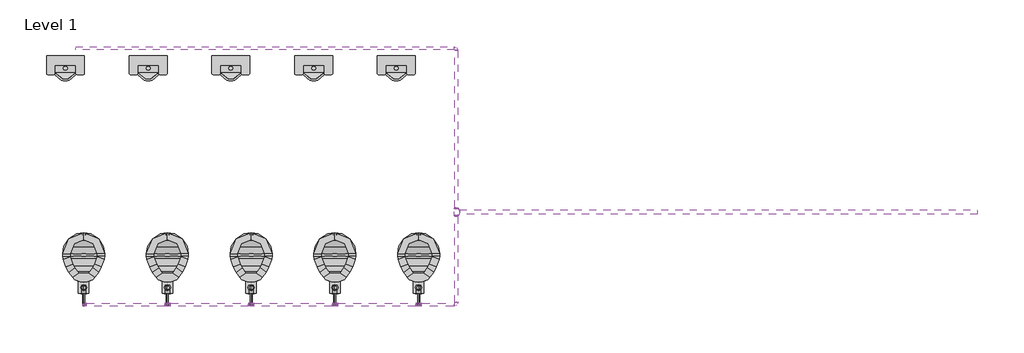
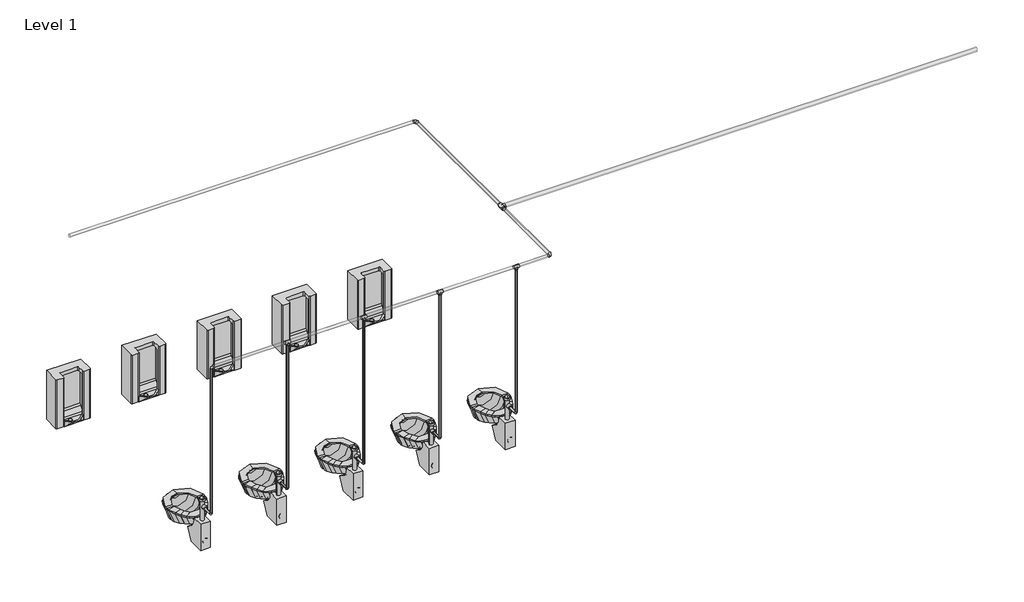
# One storey: 20 pipe fittings, 19 pipe segments, 10 flow terminals.
"""IFC4 building model written with IfcOpenShell, lengths in millimetres."""

from ifc_helpers import new_model, si_unit, point, frame, frame_2d, origin, place, context, project, spatial, circle_curve, trimmed, segment, composite_curve, outline, extrude, transform, mapped, element, save
from components import m_urinal_with_wing_wall_hung_standard_c620f45a, m_water_closet_flush_valve_wall_mounted_private_6_1_lpf_e7253cda, m_elbow_generic_standard_371413ad, m_elbow_generic_standard_773e5a53, m_elbow_generic_standard_c06ac706, m_tee_generic_standard_1efde03b, m_tee_generic_standard_3d02b783, m_transition_generic_standard_974af0e1, m_transition_generic_standard_75be8432

model = new_model("IFC4")

# Units and contexts
model_context = context("Model", 3, world=origin())
ifc_project = project(units=[si_unit("LENGTHUNIT", "METRE", prefix="MILLI")], contexts=[model_context])

# Site, building, storey
site = spatial("IfcSite", under=ifc_project)
building = spatial("IfcBuilding", under=site)
storey = spatial("IfcBuildingStorey", under=building, Name="Level 1", Elevation=0.0)

# Flow terminals
placement = place(None, origin())
m_urinal_with_wing_wall_hung_standard_shape = m_urinal_with_wing_wall_hung_standard_c620f45a(model_context)
element("IfcFlowTerminal", 1, ObjectType="M_Urinal with Wing - Wall Hung : Standard", at=placement, inside=storey, context=model_context, shape_type="MappedRepresentation", body=[
    mapped(m_urinal_with_wing_wall_hung_standard_shape, transform((-4050.7449839, -3749.1353269, 430.0), x_axis=(1.0, 0.0, 0.0), y_axis=(0.0, 0.0, 1.0), z_axis=(0.0, -1.0, 0.0))),
])
element("IfcFlowTerminal", 2, ObjectType="M_Urinal with Wing - Wall Hung : Standard", at=placement, inside=storey, context=model_context, shape_type="MappedRepresentation", body=[
    mapped(m_urinal_with_wing_wall_hung_standard_shape, transform((-5050.7449839, -3749.1353269, 430.0), x_axis=(1.0, 0.0, 0.0), y_axis=(0.0, 0.0, 1.0), z_axis=(0.0, -1.0, 0.0))),
])
element("IfcFlowTerminal", 3, ObjectType="M_Urinal with Wing - Wall Hung : Standard", at=placement, inside=storey, context=model_context, shape_type="MappedRepresentation", body=[
    mapped(m_urinal_with_wing_wall_hung_standard_shape, transform((-6050.7449839, -3749.1353269, 430.0), x_axis=(1.0, 0.0, 0.0), y_axis=(0.0, 0.0, 1.0), z_axis=(0.0, -1.0, 0.0))),
])
element("IfcFlowTerminal", 4, ObjectType="M_Urinal with Wing - Wall Hung : Standard", at=placement, inside=storey, context=model_context, shape_type="MappedRepresentation", body=[
    mapped(m_urinal_with_wing_wall_hung_standard_shape, transform((-7050.7449839, -3749.1353269, 430.0), x_axis=(1.0, 0.0, 0.0), y_axis=(0.0, 0.0, 1.0), z_axis=(0.0, -1.0, 0.0))),
])
element("IfcFlowTerminal", 5, ObjectType="M_Urinal with Wing - Wall Hung : Standard", at=placement, inside=storey, context=model_context, shape_type="MappedRepresentation", body=[
    mapped(m_urinal_with_wing_wall_hung_standard_shape, transform((-8050.7449839, -3749.1353269, 430.0), x_axis=(1.0, 0.0, 0.0), y_axis=(0.0, 0.0, 1.0), z_axis=(0.0, -1.0, 0.0))),
])
m_water_closet_flush_valve_wall_mounted_private_6_1_lpf_shape = m_water_closet_flush_valve_wall_mounted_private_6_1_lpf_e7253cda(model_context)
element("IfcFlowTerminal", 6, ObjectType="M_Water Closet - Flush Valve - Wall Mounted : Private - 6.1 Lpf", at=placement, inside=storey, context=model_context, shape_type="MappedRepresentation", body=[
    mapped(m_water_closet_flush_valve_wall_mounted_private_6_1_lpf_shape, transform((-3781.7783755, -6623.8353269, 430.0), x_axis=(-1.0, 0.0, 0.0), y_axis=(0.0, 0.0, 1.0), z_axis=(0.0, 1.0, 0.0))),
])
element("IfcFlowTerminal", 7, ObjectType="M_Water Closet - Flush Valve - Wall Mounted : Private - 6.1 Lpf", at=placement, inside=storey, context=model_context, shape_type="MappedRepresentation", body=[
    mapped(m_water_closet_flush_valve_wall_mounted_private_6_1_lpf_shape, transform((-4793.7783755, -6623.8353269, 430.0), x_axis=(-1.0, 0.0, 0.0), y_axis=(0.0, 0.0, 1.0), z_axis=(0.0, 1.0, 0.0))),
])
element("IfcFlowTerminal", 8, ObjectType="M_Water Closet - Flush Valve - Wall Mounted : Private - 6.1 Lpf", at=placement, inside=storey, context=model_context, shape_type="MappedRepresentation", body=[
    mapped(m_water_closet_flush_valve_wall_mounted_private_6_1_lpf_shape, transform((-5805.7783755, -6623.8353269, 430.0), x_axis=(-1.0, 0.0, 0.0), y_axis=(0.0, 0.0, 1.0), z_axis=(0.0, 1.0, 0.0))),
])
element("IfcFlowTerminal", 9, ObjectType="M_Water Closet - Flush Valve - Wall Mounted : Private - 6.1 Lpf", at=placement, inside=storey, context=model_context, shape_type="MappedRepresentation", body=[
    mapped(m_water_closet_flush_valve_wall_mounted_private_6_1_lpf_shape, transform((-6817.7783755, -6623.8353269, 430.0), x_axis=(-1.0, 0.0, 0.0), y_axis=(0.0, 0.0, 1.0), z_axis=(0.0, 1.0, 0.0))),
])
element("IfcFlowTerminal", 10, ObjectType="M_Water Closet - Flush Valve - Wall Mounted : Private - 6.1 Lpf", at=placement, inside=storey, context=model_context, shape_type="MappedRepresentation", body=[
    mapped(m_water_closet_flush_valve_wall_mounted_private_6_1_lpf_shape, transform((-7829.7783755, -6623.8353269, 430.0), x_axis=(-1.0, 0.0, 0.0), y_axis=(0.0, 0.0, 1.0), z_axis=(0.0, 1.0, 0.0))),
])

# Pipe fittings
m_elbow_generic_standard_shape = m_elbow_generic_standard_371413ad(model_context)
element("IfcPipeFitting", 11, ObjectType="M_Elbow - Generic : Standard", at=placement, inside=storey, context=model_context, shape_type="MappedRepresentation", body=[
    mapped(m_elbow_generic_standard_shape, transform((-3324.7579909, -3659.2203152, 2750.0), x_axis=(0.0, 1.0, 0.0), y_axis=(-1.0, 0.0, 0.0), z_axis=(0.0, 0.0, 1.0))),
])
element("IfcPipeFitting", 12, ObjectType="M_Elbow - Generic : Standard", at=placement, inside=storey, context=model_context, shape_type="MappedRepresentation", body=[
    mapped(m_elbow_generic_standard_shape, transform((-3324.7579909, -6759.2203152, 2750.0), x_axis=(1.0, 0.0, 0.0), y_axis=(0.0, 1.0, 0.0), z_axis=(0.0, 0.0, 1.0))),
])
m_elbow_generic_standard_2_shape = m_elbow_generic_standard_773e5a53(model_context)
element("IfcPipeFitting", 13, ObjectType="M_Elbow - Generic : Standard", at=placement, inside=storey, context=model_context, shape_type="MappedRepresentation", body=[
    mapped(m_elbow_generic_standard_2_shape, transform((-7829.7783755, -6759.2203152, 688.2), x_axis=(0.0, -0.9999999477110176, -0.00032338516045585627), y_axis=(0.0, -0.00032338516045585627, 0.9999999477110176), z_axis=(-1.0, 0.0, 0.0))),
])
m_elbow_generic_standard_3_shape = m_elbow_generic_standard_c06ac706(model_context)
element("IfcPipeFitting", 14, ObjectType="M_Elbow - Generic : Standard", at=placement, inside=storey, context=model_context, shape_type="MappedRepresentation", body=[
    mapped(m_elbow_generic_standard_3_shape, transform((-3781.7783755, -6759.2203152, 688.2), x_axis=(0.0, 0.0, -1.0), y_axis=(0.0, 1.0, 0.0), z_axis=(1.0, 0.0, 0.0))),
])
element("IfcPipeFitting", 15, ObjectType="M_Elbow - Generic : Standard", at=placement, inside=storey, context=model_context, shape_type="MappedRepresentation", body=[
    mapped(m_elbow_generic_standard_3_shape, transform((-4793.7783755, -6759.2203152, 688.2), x_axis=(0.0, 0.0, -1.0), y_axis=(0.0, 1.0, 0.0), z_axis=(1.0, 0.0, 0.0))),
])
element("IfcPipeFitting", 16, ObjectType="M_Elbow - Generic : Standard", at=placement, inside=storey, context=model_context, shape_type="MappedRepresentation", body=[
    mapped(m_elbow_generic_standard_3_shape, transform((-5805.7783755, -6759.2203152, 688.2), x_axis=(0.0, 0.0, -1.0), y_axis=(0.0, 1.0, 0.0), z_axis=(1.0, 0.0, 0.0))),
])
element("IfcPipeFitting", 17, ObjectType="M_Elbow - Generic : Standard", at=placement, inside=storey, context=model_context, shape_type="MappedRepresentation", body=[
    mapped(m_elbow_generic_standard_3_shape, transform((-6817.7783755, -6759.2203152, 688.2), x_axis=(0.0, 0.0, -1.0), y_axis=(0.0, 1.0, 0.0), z_axis=(1.0, 0.0, 0.0))),
])
element("IfcPipeFitting", 18, ObjectType="M_Elbow - Generic : Standard", at=placement, inside=storey, context=model_context, shape_type="MappedRepresentation", body=[
    mapped(m_elbow_generic_standard_3_shape, transform((-7829.7783755, -6759.2203152, 2750.0), x_axis=(-1.0, 0.0, 0.0), y_axis=(0.0, 0.0, -1.0), z_axis=(0.0, -1.0, 0.0))),
])
m_tee_generic_standard_shape = m_tee_generic_standard_1efde03b(model_context)
element("IfcPipeFitting", 19, ObjectType="M_Tee - Generic : Standard", at=placement, inside=storey, context=model_context, shape_type="MappedRepresentation", body=[
    mapped(m_tee_generic_standard_shape, transform((-3324.7579909, -5638.8520575, 2750.0), x_axis=(0.0, 1.0, 0.0), y_axis=(-1.0, 0.0, 0.0), z_axis=(0.0, 0.0, 1.0))),
])
m_tee_generic_standard_2_shape = m_tee_generic_standard_3d02b783(model_context)
element("IfcPipeFitting", 20, ObjectType="M_Tee - Generic : Standard", at=placement, inside=storey, context=model_context, shape_type="MappedRepresentation", body=[
    mapped(m_tee_generic_standard_2_shape, transform((-3781.7783755, -6759.2203152, 2750.0), x_axis=(1.0, 0.0, 0.0), y_axis=(0.0, 0.0, 1.0), z_axis=(0.0, -1.0, 0.0))),
])
element("IfcPipeFitting", 21, ObjectType="M_Tee - Generic : Standard", at=placement, inside=storey, context=model_context, shape_type="MappedRepresentation", body=[
    mapped(m_tee_generic_standard_2_shape, transform((-4793.7783755, -6759.2203152, 2750.0), x_axis=(1.0, 0.0, 0.0), y_axis=(0.0, 0.0, 1.0), z_axis=(0.0, -1.0, 0.0))),
])
element("IfcPipeFitting", 22, ObjectType="M_Tee - Generic : Standard", at=placement, inside=storey, context=model_context, shape_type="MappedRepresentation", body=[
    mapped(m_tee_generic_standard_2_shape, transform((-5805.7783755, -6759.2203152, 2750.0), x_axis=(1.0, 0.0, 0.0), y_axis=(0.0, 0.0, 1.0), z_axis=(0.0, -1.0, 0.0))),
])
element("IfcPipeFitting", 23, ObjectType="M_Tee - Generic : Standard", at=placement, inside=storey, context=model_context, shape_type="MappedRepresentation", body=[
    mapped(m_tee_generic_standard_2_shape, transform((-6817.7783755, -6759.2203152, 2750.0), x_axis=(1.0, 0.0, 0.0), y_axis=(0.0, 0.0, 1.0), z_axis=(0.0, -1.0, 0.0))),
])
m_transition_generic_standard_shape = m_transition_generic_standard_974af0e1(model_context)
element("IfcPipeFitting", 24, ObjectType="M_Transition - Generic : Standard", at=placement, inside=storey, context=model_context, shape_type="MappedRepresentation", body=[
    mapped(m_transition_generic_standard_shape, transform((-3324.7579909, -5678.5395575, 2750.0), x_axis=(0.0, -1.0, 0.0), y_axis=(1.0, 0.0, 0.0), z_axis=(0.0, 0.0, 1.0))),
])
element("IfcPipeFitting", 25, ObjectType="M_Transition - Generic : Standard", at=placement, inside=storey, context=model_context, shape_type="MappedRepresentation", body=[
    mapped(m_transition_generic_standard_shape, transform((-3324.7579909, -5599.1645575, 2750.0), x_axis=(0.0, 1.0, 0.0), y_axis=(-1.0, 0.0, 0.0), z_axis=(0.0, 0.0, 1.0))),
])
m_transition_generic_standard_2_shape = m_transition_generic_standard_75be8432(model_context)
element("IfcPipeFitting", 26, ObjectType="M_Transition - Generic : Standard", at=placement, inside=storey, context=model_context, shape_type="MappedRepresentation", body=[
    mapped(m_transition_generic_standard_2_shape, transform((-3781.7783755, -6759.2203152, 2716.6625), x_axis=(0.0, 0.0, -1.0), y_axis=(-1.0, 0.0, 0.0), z_axis=(0.0, 1.0, 0.0))),
])
element("IfcPipeFitting", 27, ObjectType="M_Transition - Generic : Standard", at=placement, inside=storey, context=model_context, shape_type="MappedRepresentation", body=[
    mapped(m_transition_generic_standard_2_shape, transform((-4793.7783755, -6759.2203152, 2716.6625), x_axis=(0.0, 0.0, -1.0), y_axis=(-1.0, 0.0, 0.0), z_axis=(0.0, 1.0, 0.0))),
])
element("IfcPipeFitting", 28, ObjectType="M_Transition - Generic : Standard", at=placement, inside=storey, context=model_context, shape_type="MappedRepresentation", body=[
    mapped(m_transition_generic_standard_2_shape, transform((-5805.7783755, -6759.2203152, 2716.6625), x_axis=(0.0, 0.0, -1.0), y_axis=(-1.0, 0.0, 0.0), z_axis=(0.0, 1.0, 0.0))),
])
element("IfcPipeFitting", 29, ObjectType="M_Transition - Generic : Standard", at=placement, inside=storey, context=model_context, shape_type="MappedRepresentation", body=[
    mapped(m_transition_generic_standard_2_shape, transform((-6817.7783755, -6759.2203152, 2716.6625), x_axis=(0.0, 0.0, -1.0), y_axis=(-1.0, 0.0, 0.0), z_axis=(0.0, 1.0, 0.0))),
])
element("IfcPipeFitting", 30, ObjectType="M_Transition - Generic : Standard", at=placement, inside=storey, context=model_context, shape_type="MappedRepresentation", body=[
    mapped(m_transition_generic_standard_2_shape, transform((-7798.8221255, -6759.2203152, 2750.0), x_axis=(-1.0, 0.0, 0.0), y_axis=(0.0, -1.0, 0.0), z_axis=(0.0, 0.0, 1.0))),
])

# Pipe segments
element("IfcPipeSegment", 31, ObjectType="Standard", at=placement, inside=storey, context=model_context, shape_type="SweptSolid", body=[
    extrude(outline(composite_curve([segment(trimmed(circle_curve(frame_2d((-3659.2203152, 2750.0)), 19.05), [point((-3640.1703152, 2750.0))], [point((-3659.2203152, 2730.95))], False, "CARTESIAN"), True, "CONTINUOUS"), segment(trimmed(circle_curve(frame_2d((-3659.2203152, 2750.0)), 19.05), [point((-3659.2203152, 2730.95))], [point((-3678.2703152, 2750.0))], False, "CARTESIAN"), True, "CONTINUOUS"), segment(trimmed(circle_curve(frame_2d((-3659.2203152, 2750.0)), 19.05), [point((-3678.2703152, 2750.0))], [point((-3659.2203152, 2769.05))], False, "CARTESIAN"), True, "CONTINUOUS"), segment(trimmed(circle_curve(frame_2d((-3659.2203152, 2750.0)), 19.05), [point((-3659.2203152, 2769.05))], [point((-3640.1703152, 2750.0))], False, "CARTESIAN"), True, "CONTINUOUS")], self_intersect=False)), frame((-7924.7579909, 0.0, 0.0), z_axis=(1.0, 0.0, 0.0), x_axis=(0.0, 1.0, 0.0)), (0.0, 0.0, 1.0), 4573.0125),
])
element("IfcPipeSegment", 32, ObjectType="Standard", at=placement, inside=storey, context=model_context, shape_type="SweptSolid", body=[
    extrude(outline(composite_curve([segment(trimmed(circle_curve(frame_2d((2750.0, -3324.7579909)), 19.05), [point((2750.0, -3343.8079909))], [point((2730.95, -3324.7579909))], False, "CARTESIAN"), True, "CONTINUOUS"), segment(trimmed(circle_curve(frame_2d((2750.0, -3324.7579909)), 19.05), [point((2730.95, -3324.7579909))], [point((2750.0, -3305.7079909))], False, "CARTESIAN"), True, "CONTINUOUS"), segment(trimmed(circle_curve(frame_2d((2750.0, -3324.7579909)), 19.05), [point((2750.0, -3305.7079909))], [point((2769.05, -3324.7579909))], False, "CARTESIAN"), True, "CONTINUOUS"), segment(trimmed(circle_curve(frame_2d((2750.0, -3324.7579909)), 19.05), [point((2769.05, -3324.7579909))], [point((2750.0, -3343.8079909))], False, "CARTESIAN"), True, "CONTINUOUS")], self_intersect=False)), frame((0.0, -6732.2328152, 0.0), z_axis=(0.0, 1.0, 0.0), x_axis=(0.0, 0.0, 1.0)), (0.0, 0.0, 1.0), 1040.1995077),
])
element("IfcPipeSegment", 33, ObjectType="Standard", at=placement, inside=storey, context=model_context, shape_type="SweptSolid", body=[
    extrude(outline(composite_curve([segment(trimmed(circle_curve(frame_2d((-5638.8520575, 2750.0)), 25.4), [point((-5664.2520575, 2750.0))], [point((-5638.8520575, 2775.4))], False, "CARTESIAN"), True, "CONTINUOUS"), segment(trimmed(circle_curve(frame_2d((-5638.8520575, 2750.0)), 25.4), [point((-5638.8520575, 2775.4))], [point((-5613.4520575, 2750.0))], False, "CARTESIAN"), True, "CONTINUOUS"), segment(trimmed(circle_curve(frame_2d((-5638.8520575, 2750.0)), 25.4), [point((-5613.4520575, 2750.0))], [point((-5638.8520575, 2724.6))], False, "CARTESIAN"), True, "CONTINUOUS"), segment(trimmed(circle_curve(frame_2d((-5638.8520575, 2750.0)), 25.4), [point((-5638.8520575, 2724.6))], [point((-5664.2520575, 2750.0))], False, "CARTESIAN"), True, "CONTINUOUS")], self_intersect=False)), frame((-3285.0704909, 0.0, 0.0), z_axis=(1.0, 0.0, 0.0), x_axis=(0.0, 1.0, 0.0)), (0.0, 0.0, 1.0), 6260.3125),
])
element("IfcPipeSegment", 34, ObjectType="Standard", at=placement, inside=storey, context=model_context, shape_type="SweptSolid", body=[
    extrude(outline(composite_curve([segment(trimmed(circle_curve(frame_2d((2750.0, -3324.7579909)), 19.05), [point((2750.0, -3343.8079909))], [point((2730.95, -3324.7579909))], False, "CARTESIAN"), True, "CONTINUOUS"), segment(trimmed(circle_curve(frame_2d((2750.0, -3324.7579909)), 19.05), [point((2730.95, -3324.7579909))], [point((2750.0, -3305.7079909))], False, "CARTESIAN"), True, "CONTINUOUS"), segment(trimmed(circle_curve(frame_2d((2750.0, -3324.7579909)), 19.05), [point((2750.0, -3305.7079909))], [point((2769.05, -3324.7579909))], False, "CARTESIAN"), True, "CONTINUOUS"), segment(trimmed(circle_curve(frame_2d((2750.0, -3324.7579909)), 19.05), [point((2769.05, -3324.7579909))], [point((2750.0, -3343.8079909))], False, "CARTESIAN"), True, "CONTINUOUS")], self_intersect=False)), frame((0.0, -5585.6708075, 0.0), z_axis=(0.0, 1.0, 0.0), x_axis=(0.0, 0.0, 1.0)), (0.0, 0.0, 1.0), 1899.4629923),
])
element("IfcPipeSegment", 35, ObjectType="Standard", at=placement, inside=storey, context=model_context, shape_type="SweptSolid", body=[
    extrude(outline(composite_curve([segment(trimmed(circle_curve(frame_2d((0.0, 12.7)), 12.7), [point((0.0, 25.4))], [point((12.7, 12.7))], False, "CARTESIAN"), True, "CONTINUOUS"), segment(trimmed(circle_curve(frame_2d((0.0, 12.7)), 12.7), [point((12.7, 12.7))], [point((0.0, 0.0))], False, "CARTESIAN"), True, "CONTINUOUS"), segment(trimmed(circle_curve(frame_2d((0.0, 12.7)), 12.7), [point((0.0, 0.0))], [point((-12.7, 12.7))], False, "CARTESIAN"), True, "CONTINUOUS"), segment(trimmed(circle_curve(frame_2d((0.0, 12.7)), 12.7), [point((-12.7, 12.7))], [point((0.0, 25.4))], False, "CARTESIAN"), True, "CONTINUOUS")], self_intersect=False)), frame((-3794.4783755, -6738.5828152, 688.2), z_axis=(0.0, 0.9999999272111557, 0.000381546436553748), x_axis=(0.0, -0.000381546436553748, 0.9999999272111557)), (0.0, 0.0, 1.0), 114.7474967),
])
element("IfcPipeSegment", 36, ObjectType="Standard", at=placement, inside=storey, context=model_context, shape_type="SweptSolid", body=[
    extrude(outline(composite_curve([segment(trimmed(circle_curve(frame_2d((-3781.7783755, -6759.2203152)), 12.7), [point((-3769.0783755, -6759.2203152))], [point((-3781.7783755, -6771.9203152))], False, "CARTESIAN"), True, "CONTINUOUS"), segment(trimmed(circle_curve(frame_2d((-3781.7783755, -6759.2203152)), 12.7), [point((-3781.7783755, -6771.9203152))], [point((-3794.4783755, -6759.2203152))], False, "CARTESIAN"), True, "CONTINUOUS"), segment(trimmed(circle_curve(frame_2d((-3781.7783755, -6759.2203152)), 12.7), [point((-3794.4783755, -6759.2203152))], [point((-3781.7783755, -6746.5203152))], False, "CARTESIAN"), True, "CONTINUOUS"), segment(trimmed(circle_curve(frame_2d((-3781.7783755, -6759.2203152)), 12.7), [point((-3781.7783755, -6746.5203152))], [point((-3769.0783755, -6759.2203152))], False, "CARTESIAN"), True, "CONTINUOUS")], self_intersect=False)), frame((0.0, 0.0, 708.8375), z_axis=(0.0, 0.0, 1.0), x_axis=(1.0, 0.0, 0.0)), (0.0, 0.0, 1.0), 1997.50625),
])
element("IfcPipeSegment", 37, ObjectType="Standard", at=placement, inside=storey, context=model_context, shape_type="SweptSolid", body=[
    extrude(outline(composite_curve([segment(trimmed(circle_curve(frame_2d((-6759.2203152, 2750.0)), 19.05), [point((-6740.1703152, 2750.0))], [point((-6759.2203152, 2730.95))], False, "CARTESIAN"), True, "CONTINUOUS"), segment(trimmed(circle_curve(frame_2d((-6759.2203152, 2750.0)), 19.05), [point((-6759.2203152, 2730.95))], [point((-6778.2703152, 2750.0))], False, "CARTESIAN"), True, "CONTINUOUS"), segment(trimmed(circle_curve(frame_2d((-6759.2203152, 2750.0)), 19.05), [point((-6778.2703152, 2750.0))], [point((-6759.2203152, 2769.05))], False, "CARTESIAN"), True, "CONTINUOUS"), segment(trimmed(circle_curve(frame_2d((-6759.2203152, 2750.0)), 19.05), [point((-6759.2203152, 2769.05))], [point((-6740.1703152, 2750.0))], False, "CARTESIAN"), True, "CONTINUOUS")], self_intersect=False)), frame((-3748.4408755, 0.0, 0.0), z_axis=(1.0, 0.0, 0.0), x_axis=(0.0, 1.0, 0.0)), (0.0, 0.0, 1.0), 396.6953846),
])
element("IfcPipeSegment", 38, ObjectType="Standard", at=placement, inside=storey, context=model_context, shape_type="SweptSolid", body=[
    extrude(outline(composite_curve([segment(trimmed(circle_curve(frame_2d((0.0, 12.7)), 12.7), [point((0.0, 25.4))], [point((12.7, 12.7))], False, "CARTESIAN"), True, "CONTINUOUS"), segment(trimmed(circle_curve(frame_2d((0.0, 12.7)), 12.7), [point((12.7, 12.7))], [point((0.0, 0.0))], False, "CARTESIAN"), True, "CONTINUOUS"), segment(trimmed(circle_curve(frame_2d((0.0, 12.7)), 12.7), [point((0.0, 0.0))], [point((-12.7, 12.7))], False, "CARTESIAN"), True, "CONTINUOUS"), segment(trimmed(circle_curve(frame_2d((0.0, 12.7)), 12.7), [point((-12.7, 12.7))], [point((0.0, 25.4))], False, "CARTESIAN"), True, "CONTINUOUS")], self_intersect=False)), frame((-4806.4783755, -6738.5828152, 688.2), z_axis=(0.0, 0.9999999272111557, 0.000381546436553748), x_axis=(0.0, -0.000381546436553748, 0.9999999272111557)), (0.0, 0.0, 1.0), 114.7474967),
])
element("IfcPipeSegment", 39, ObjectType="Standard", at=placement, inside=storey, context=model_context, shape_type="SweptSolid", body=[
    extrude(outline(composite_curve([segment(trimmed(circle_curve(frame_2d((-4793.7783755, -6759.2203152)), 12.7), [point((-4781.0783755, -6759.2203152))], [point((-4793.7783755, -6771.9203152))], False, "CARTESIAN"), True, "CONTINUOUS"), segment(trimmed(circle_curve(frame_2d((-4793.7783755, -6759.2203152)), 12.7), [point((-4793.7783755, -6771.9203152))], [point((-4806.4783755, -6759.2203152))], False, "CARTESIAN"), True, "CONTINUOUS"), segment(trimmed(circle_curve(frame_2d((-4793.7783755, -6759.2203152)), 12.7), [point((-4806.4783755, -6759.2203152))], [point((-4793.7783755, -6746.5203152))], False, "CARTESIAN"), True, "CONTINUOUS"), segment(trimmed(circle_curve(frame_2d((-4793.7783755, -6759.2203152)), 12.7), [point((-4793.7783755, -6746.5203152))], [point((-4781.0783755, -6759.2203152))], False, "CARTESIAN"), True, "CONTINUOUS")], self_intersect=False)), frame((0.0, 0.0, 708.8375), z_axis=(0.0, 0.0, 1.0), x_axis=(1.0, 0.0, 0.0)), (0.0, 0.0, 1.0), 1997.50625),
])
element("IfcPipeSegment", 40, ObjectType="Standard", at=placement, inside=storey, context=model_context, shape_type="SweptSolid", body=[
    extrude(outline(composite_curve([segment(trimmed(circle_curve(frame_2d((-6759.2203152, 2750.0)), 19.05), [point((-6740.1703152, 2750.0))], [point((-6759.2203152, 2730.95))], False, "CARTESIAN"), True, "CONTINUOUS"), segment(trimmed(circle_curve(frame_2d((-6759.2203152, 2750.0)), 19.05), [point((-6759.2203152, 2730.95))], [point((-6778.2703152, 2750.0))], False, "CARTESIAN"), True, "CONTINUOUS"), segment(trimmed(circle_curve(frame_2d((-6759.2203152, 2750.0)), 19.05), [point((-6778.2703152, 2750.0))], [point((-6759.2203152, 2769.05))], False, "CARTESIAN"), True, "CONTINUOUS"), segment(trimmed(circle_curve(frame_2d((-6759.2203152, 2750.0)), 19.05), [point((-6759.2203152, 2769.05))], [point((-6740.1703152, 2750.0))], False, "CARTESIAN"), True, "CONTINUOUS")], self_intersect=False)), frame((-4760.4408755, 0.0, 0.0), z_axis=(1.0, 0.0, 0.0), x_axis=(0.0, 1.0, 0.0)), (0.0, 0.0, 1.0), 945.325),
])
element("IfcPipeSegment", 41, ObjectType="Standard", at=placement, inside=storey, context=model_context, shape_type="SweptSolid", body=[
    extrude(outline(composite_curve([segment(trimmed(circle_curve(frame_2d((0.0, 12.7)), 12.7), [point((0.0, 25.4))], [point((12.7, 12.7))], False, "CARTESIAN"), True, "CONTINUOUS"), segment(trimmed(circle_curve(frame_2d((0.0, 12.7)), 12.7), [point((12.7, 12.7))], [point((0.0, 0.0))], False, "CARTESIAN"), True, "CONTINUOUS"), segment(trimmed(circle_curve(frame_2d((0.0, 12.7)), 12.7), [point((0.0, 0.0))], [point((-12.7, 12.7))], False, "CARTESIAN"), True, "CONTINUOUS"), segment(trimmed(circle_curve(frame_2d((0.0, 12.7)), 12.7), [point((-12.7, 12.7))], [point((0.0, 25.4))], False, "CARTESIAN"), True, "CONTINUOUS")], self_intersect=False)), frame((-5818.4783755, -6738.5828152, 688.2), z_axis=(0.0, 0.9999999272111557, 0.000381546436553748), x_axis=(0.0, -0.000381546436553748, 0.9999999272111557)), (0.0, 0.0, 1.0), 114.7474967),
])
element("IfcPipeSegment", 42, ObjectType="Standard", at=placement, inside=storey, context=model_context, shape_type="SweptSolid", body=[
    extrude(outline(composite_curve([segment(trimmed(circle_curve(frame_2d((-5805.7783755, -6759.2203152)), 12.7), [point((-5793.0783755, -6759.2203152))], [point((-5805.7783755, -6771.9203152))], False, "CARTESIAN"), True, "CONTINUOUS"), segment(trimmed(circle_curve(frame_2d((-5805.7783755, -6759.2203152)), 12.7), [point((-5805.7783755, -6771.9203152))], [point((-5818.4783755, -6759.2203152))], False, "CARTESIAN"), True, "CONTINUOUS"), segment(trimmed(circle_curve(frame_2d((-5805.7783755, -6759.2203152)), 12.7), [point((-5818.4783755, -6759.2203152))], [point((-5805.7783755, -6746.5203152))], False, "CARTESIAN"), True, "CONTINUOUS"), segment(trimmed(circle_curve(frame_2d((-5805.7783755, -6759.2203152)), 12.7), [point((-5805.7783755, -6746.5203152))], [point((-5793.0783755, -6759.2203152))], False, "CARTESIAN"), True, "CONTINUOUS")], self_intersect=False)), frame((0.0, 0.0, 708.8375), z_axis=(0.0, 0.0, 1.0), x_axis=(1.0, 0.0, 0.0)), (0.0, 0.0, 1.0), 1997.50625),
])
element("IfcPipeSegment", 43, ObjectType="Standard", at=placement, inside=storey, context=model_context, shape_type="SweptSolid", body=[
    extrude(outline(composite_curve([segment(trimmed(circle_curve(frame_2d((-6759.2203152, 2750.0)), 19.05), [point((-6740.1703152, 2750.0))], [point((-6759.2203152, 2730.95))], False, "CARTESIAN"), True, "CONTINUOUS"), segment(trimmed(circle_curve(frame_2d((-6759.2203152, 2750.0)), 19.05), [point((-6759.2203152, 2730.95))], [point((-6778.2703152, 2750.0))], False, "CARTESIAN"), True, "CONTINUOUS"), segment(trimmed(circle_curve(frame_2d((-6759.2203152, 2750.0)), 19.05), [point((-6778.2703152, 2750.0))], [point((-6759.2203152, 2769.05))], False, "CARTESIAN"), True, "CONTINUOUS"), segment(trimmed(circle_curve(frame_2d((-6759.2203152, 2750.0)), 19.05), [point((-6759.2203152, 2769.05))], [point((-6740.1703152, 2750.0))], False, "CARTESIAN"), True, "CONTINUOUS")], self_intersect=False)), frame((-5772.4408755, 0.0, 0.0), z_axis=(1.0, 0.0, 0.0), x_axis=(0.0, 1.0, 0.0)), (0.0, 0.0, 1.0), 945.325),
])
element("IfcPipeSegment", 44, ObjectType="Standard", at=placement, inside=storey, context=model_context, shape_type="SweptSolid", body=[
    extrude(outline(composite_curve([segment(trimmed(circle_curve(frame_2d((0.0, 12.7)), 12.7), [point((0.0, 25.4))], [point((12.7, 12.7))], False, "CARTESIAN"), True, "CONTINUOUS"), segment(trimmed(circle_curve(frame_2d((0.0, 12.7)), 12.7), [point((12.7, 12.7))], [point((0.0, 0.0))], False, "CARTESIAN"), True, "CONTINUOUS"), segment(trimmed(circle_curve(frame_2d((0.0, 12.7)), 12.7), [point((0.0, 0.0))], [point((-12.7, 12.7))], False, "CARTESIAN"), True, "CONTINUOUS"), segment(trimmed(circle_curve(frame_2d((0.0, 12.7)), 12.7), [point((-12.7, 12.7))], [point((0.0, 25.4))], False, "CARTESIAN"), True, "CONTINUOUS")], self_intersect=False)), frame((-6830.4783755, -6738.5828152, 688.2), z_axis=(0.0, 0.9999999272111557, 0.000381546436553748), x_axis=(0.0, -0.000381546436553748, 0.9999999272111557)), (0.0, 0.0, 1.0), 114.7474967),
])
element("IfcPipeSegment", 45, ObjectType="Standard", at=placement, inside=storey, context=model_context, shape_type="SweptSolid", body=[
    extrude(outline(composite_curve([segment(trimmed(circle_curve(frame_2d((-6817.7783755, -6759.2203152)), 12.7), [point((-6805.0783755, -6759.2203152))], [point((-6817.7783755, -6771.9203152))], False, "CARTESIAN"), True, "CONTINUOUS"), segment(trimmed(circle_curve(frame_2d((-6817.7783755, -6759.2203152)), 12.7), [point((-6817.7783755, -6771.9203152))], [point((-6830.4783755, -6759.2203152))], False, "CARTESIAN"), True, "CONTINUOUS"), segment(trimmed(circle_curve(frame_2d((-6817.7783755, -6759.2203152)), 12.7), [point((-6830.4783755, -6759.2203152))], [point((-6817.7783755, -6746.5203152))], False, "CARTESIAN"), True, "CONTINUOUS"), segment(trimmed(circle_curve(frame_2d((-6817.7783755, -6759.2203152)), 12.7), [point((-6817.7783755, -6746.5203152))], [point((-6805.0783755, -6759.2203152))], False, "CARTESIAN"), True, "CONTINUOUS")], self_intersect=False)), frame((0.0, 0.0, 708.8375), z_axis=(0.0, 0.0, 1.0), x_axis=(1.0, 0.0, 0.0)), (0.0, 0.0, 1.0), 1997.50625),
])
element("IfcPipeSegment", 46, ObjectType="Standard", at=placement, inside=storey, context=model_context, shape_type="SweptSolid", body=[
    extrude(outline(composite_curve([segment(trimmed(circle_curve(frame_2d((-6759.2203152, 2750.0)), 19.05), [point((-6740.1703152, 2750.0))], [point((-6759.2203152, 2730.95))], False, "CARTESIAN"), True, "CONTINUOUS"), segment(trimmed(circle_curve(frame_2d((-6759.2203152, 2750.0)), 19.05), [point((-6759.2203152, 2730.95))], [point((-6778.2703152, 2750.0))], False, "CARTESIAN"), True, "CONTINUOUS"), segment(trimmed(circle_curve(frame_2d((-6759.2203152, 2750.0)), 19.05), [point((-6778.2703152, 2750.0))], [point((-6759.2203152, 2769.05))], False, "CARTESIAN"), True, "CONTINUOUS"), segment(trimmed(circle_curve(frame_2d((-6759.2203152, 2750.0)), 19.05), [point((-6759.2203152, 2769.05))], [point((-6740.1703152, 2750.0))], False, "CARTESIAN"), True, "CONTINUOUS")], self_intersect=False)), frame((-6784.4408755, 0.0, 0.0), z_axis=(1.0, 0.0, 0.0), x_axis=(0.0, 1.0, 0.0)), (0.0, 0.0, 1.0), 945.325),
])
element("IfcPipeSegment", 47, ObjectType="Standard", at=placement, inside=storey, context=model_context, shape_type="SweptSolid", body=[
    extrude(outline(composite_curve([segment(trimmed(circle_curve(frame_2d((0.0, 12.7)), 12.7), [point((0.0, 25.4))], [point((12.7000001, 12.7))], False, "CARTESIAN"), True, "CONTINUOUS"), segment(trimmed(circle_curve(frame_2d((0.0, 12.7)), 12.7), [point((12.7000001, 12.7))], [point((0.0, 0.0))], False, "CARTESIAN"), True, "CONTINUOUS"), segment(trimmed(circle_curve(frame_2d((0.0, 12.7)), 12.7), [point((0.0, 0.0))], [point((-12.7, 12.7))], False, "CARTESIAN"), True, "CONTINUOUS"), segment(trimmed(circle_curve(frame_2d((0.0, 12.7)), 12.7), [point((-12.7, 12.7))], [point((0.0, 25.4))], False, "CARTESIAN"), True, "CONTINUOUS")], self_intersect=False)), frame((-7842.4783755, -6738.5761413, 688.206676), z_axis=(0.0, 0.9999999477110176, 0.0003233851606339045), x_axis=(0.0, -0.0003233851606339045, 0.9999999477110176)), (0.0, 0.0, 1.0), 114.7408205),
])
element("IfcPipeSegment", 48, ObjectType="Standard", at=placement, inside=storey, context=model_context, shape_type="SweptSolid", body=[
    extrude(outline(composite_curve([segment(trimmed(circle_curve(frame_2d((-7829.7783755, -6759.2203152)), 12.7), [point((-7817.0783755, -6759.2203152))], [point((-7829.7783755, -6771.9203152))], False, "CARTESIAN"), True, "CONTINUOUS"), segment(trimmed(circle_curve(frame_2d((-7829.7783755, -6759.2203152)), 12.7), [point((-7829.7783755, -6771.9203152))], [point((-7842.4783755, -6759.2203152))], False, "CARTESIAN"), True, "CONTINUOUS"), segment(trimmed(circle_curve(frame_2d((-7829.7783755, -6759.2203152)), 12.7), [point((-7842.4783755, -6759.2203152))], [point((-7829.7783755, -6746.5203152))], False, "CARTESIAN"), True, "CONTINUOUS"), segment(trimmed(circle_curve(frame_2d((-7829.7783755, -6759.2203152)), 12.7), [point((-7829.7783755, -6746.5203152))], [point((-7817.0783755, -6759.2203152))], False, "CARTESIAN"), True, "CONTINUOUS")], self_intersect=False)), frame((0.0, 0.0, 708.8441749), z_axis=(0.0, 0.0, 1.0), x_axis=(1.0, 0.0, 0.0)), (0.0, 0.0, 1.0), 2020.5183251),
])
element("IfcPipeSegment", 49, ObjectType="Standard", at=placement, inside=storey, context=model_context, shape_type="SweptSolid", body=[
    extrude(outline(composite_curve([segment(trimmed(circle_curve(frame_2d((-6759.2203152, 2750.0)), 19.05), [point((-6740.1703152, 2750.0))], [point((-6759.2203152, 2730.95))], False, "CARTESIAN"), True, "CONTINUOUS"), segment(trimmed(circle_curve(frame_2d((-6759.2203152, 2750.0)), 19.05), [point((-6759.2203152, 2730.95))], [point((-6778.2703152, 2750.0))], False, "CARTESIAN"), True, "CONTINUOUS"), segment(trimmed(circle_curve(frame_2d((-6759.2203152, 2750.0)), 19.05), [point((-6778.2703152, 2750.0))], [point((-6759.2203152, 2769.05))], False, "CARTESIAN"), True, "CONTINUOUS"), segment(trimmed(circle_curve(frame_2d((-6759.2203152, 2750.0)), 19.05), [point((-6759.2203152, 2769.05))], [point((-6740.1703152, 2750.0))], False, "CARTESIAN"), True, "CONTINUOUS")], self_intersect=False)), frame((-7798.8221255, 0.0, 0.0), z_axis=(1.0, 0.0, 0.0), x_axis=(0.0, 1.0, 0.0)), (0.0, 0.0, 1.0), 947.70625),
])

save(model, "model.ifc")
